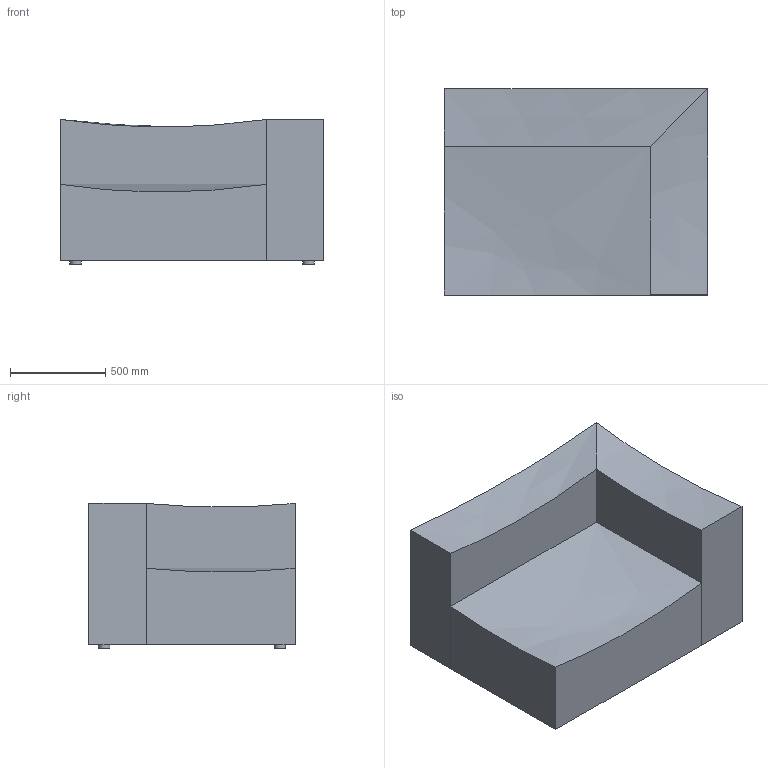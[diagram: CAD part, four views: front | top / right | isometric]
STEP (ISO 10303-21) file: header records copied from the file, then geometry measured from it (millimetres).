
FILE_DESCRIPTION(/* description */ (''),/* implementation_level */ '2;1');
FILE_NAME(/* name */ 'AHK1KH~N',/* time_stamp */ '2020-03-19T15:24:22+01:00',/* author */ (''),/* organization */ (''),/* preprocessor_version */ 'ST-DEVELOPER v16.5',/* originating_system */ '',/* authorisation */ '');
FILE_SCHEMA (('AUTOMOTIVE_DESIGN'));
Length unit declared in the file: millimetre
Products named in the file (1): Document
Bounding box: 1380 x 1080 x 760 mm (x, y, z)
Volume: 464234283.3 mm3; surface area: 8204546.6 mm2
Topology: 6 solids, 7 shells, 29 faces, 48 edges, 32 vertices
Faces by surface type: plane 22, bspline 7
Entity records: 849 total; most frequent: CARTESIAN_POINT 380, ORIENTED_EDGE 92, EDGE_CURVE 48, B_SPLINE_CURVE_WITH_KNOTS 36, VERTEX_POINT 32, ADVANCED_FACE 29, FACE_OUTER_BOUND 29, EDGE_LOOP 29
